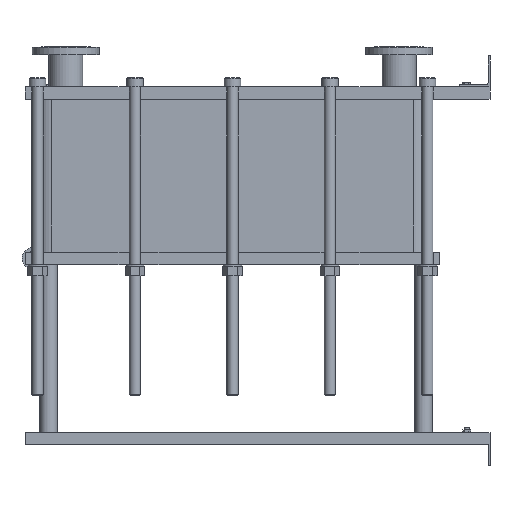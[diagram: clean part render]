
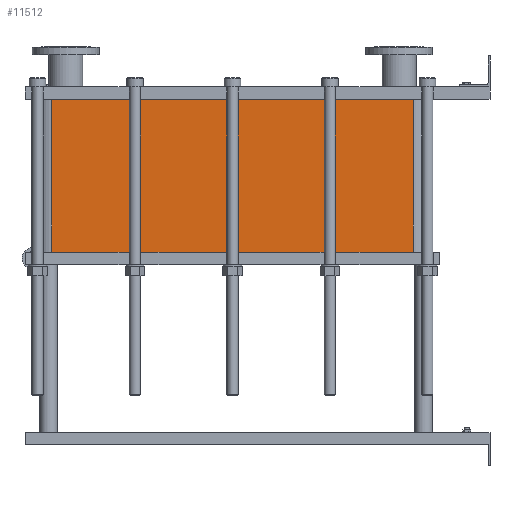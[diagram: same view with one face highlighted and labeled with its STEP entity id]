
A CAD part, left-side view. The second image highlights one B-rep face of the part: STEP entity #11512.
In plain terms, the highlighted planar face has unit normal (-1, 0, 0).
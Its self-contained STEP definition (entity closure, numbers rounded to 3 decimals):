
#1129=LINE('',#23232,#2102);
#1130=LINE('',#23236,#2103);
#1131=LINE('',#23238,#2104);
#1132=LINE('',#23239,#2105);
#2102=VECTOR('',#15887,10.);
#2103=VECTOR('',#15892,10.);
#2104=VECTOR('',#15893,10.);
#2105=VECTOR('',#15894,10.);
#3267=FACE_OUTER_BOUND('',#4093,.T.);
#4093=EDGE_LOOP('',(#10103,#10104,#10105,#10106));
#5642=VERTEX_POINT('',#23229);
#5643=VERTEX_POINT('',#23231);
#5644=VERTEX_POINT('',#23235);
#5645=VERTEX_POINT('',#23237);
#7159=EDGE_CURVE('',#5643,#5642,#1129,.T.);
#7161=EDGE_CURVE('',#5642,#5644,#1130,.T.);
#7162=EDGE_CURVE('',#5645,#5644,#1131,.T.);
#7163=EDGE_CURVE('',#5645,#5643,#1132,.T.);
#10103=ORIENTED_EDGE('',*,*,#7161,.T.);
#10104=ORIENTED_EDGE('',*,*,#7162,.F.);
#10105=ORIENTED_EDGE('',*,*,#7163,.T.);
#10106=ORIENTED_EDGE('',*,*,#7159,.T.);
#10857=PLANE('',#12751);
#11512=ADVANCED_FACE('',(#3267),#10857,.T.);
#12751=AXIS2_PLACEMENT_3D('',#23234,#15890,#15891);
#15887=DIRECTION('',(0.,0.,-1.));
#15890=DIRECTION('center_axis',(-1.,0.,0.));
#15891=DIRECTION('ref_axis',(0.,1.,0.));
#15892=DIRECTION('',(0.,-1.,0.));
#15893=DIRECTION('',(0.,0.,-1.));
#15894=DIRECTION('',(0.,1.,0.));
#23229=CARTESIAN_POINT('',(-200.,1414.,-493.35));
#23231=CARTESIAN_POINT('',(-200.,1414.,0.));
#23232=CARTESIAN_POINT('',(-200.,1414.,0.));
#23234=CARTESIAN_POINT('Origin',(-200.,248.,0.));
#23235=CARTESIAN_POINT('',(-200.,248.,-493.35));
#23236=CARTESIAN_POINT('',(-200.,539.5,-493.35));
#23237=CARTESIAN_POINT('',(-200.,248.,0.));
#23238=CARTESIAN_POINT('',(-200.,248.,0.));
#23239=CARTESIAN_POINT('',(-200.,248.,0.));
